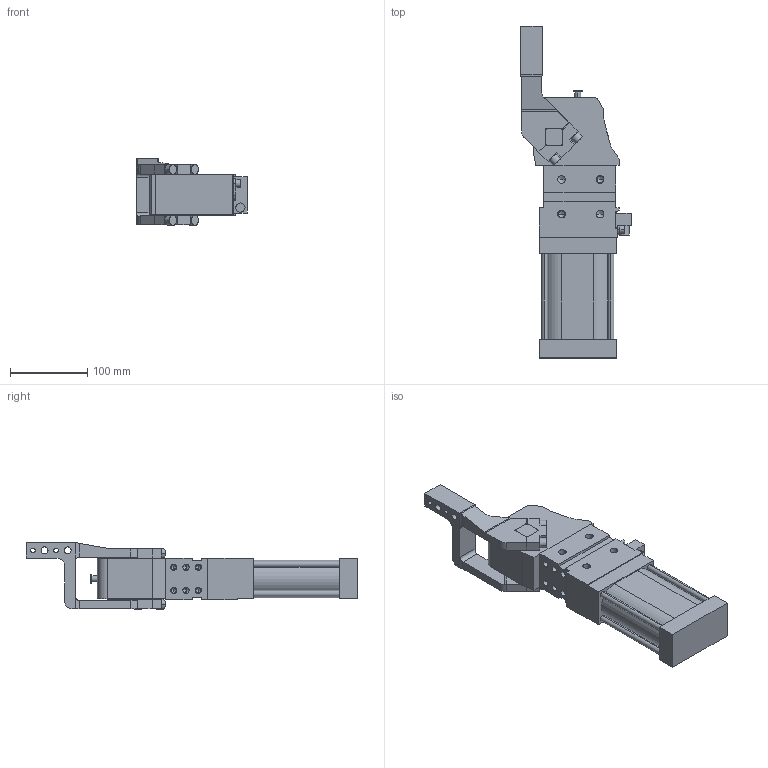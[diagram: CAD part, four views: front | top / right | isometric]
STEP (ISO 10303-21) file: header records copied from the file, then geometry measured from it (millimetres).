
FILE_DESCRIPTION (( 'STEP AP214' ), '1' );
FILE_NAME ('cpl63h1si1g_107.STEP', '2023-01-26T10:25:54', ( '' ), ( '' ), 'SwSTEP 2.0', 'SolidWorks 2022', '' );
FILE_SCHEMA (( 'AUTOMOTIVE_DESIGN' ));
Length unit declared in the file: millimetre
Products named in the file (4): blocchetto_VEP_0; meccanica_cpl_63; cpl63h1si1g_107; leva_dx_offset_15_cpl63
Assembly tree (3 placements, depth 2):
  cpl63h1si1g_107
    meccanica_cpl_63
    blocchetto_VEP_0
    leva_dx_offset_15_cpl63
Bounding box: 143.5 x 430.5 x 86.5 mm (x, y, z)
Volume: 1787113 mm3; surface area: 189079 mm2
Topology: 3 solids, 3 shells, 396 faces, 1037 edges, 639 vertices
Faces by surface type: plane 198, cylinder 148, cone 50
Entity records: 13449 total; most frequent: CARTESIAN_POINT 2134, DIRECTION 2109, ORIENTED_EDGE 1982, EDGE_CURVE 991, AXIS2_PLACEMENT_3D 728, VECTOR 653, LINE 653, VERTEX_POINT 639
